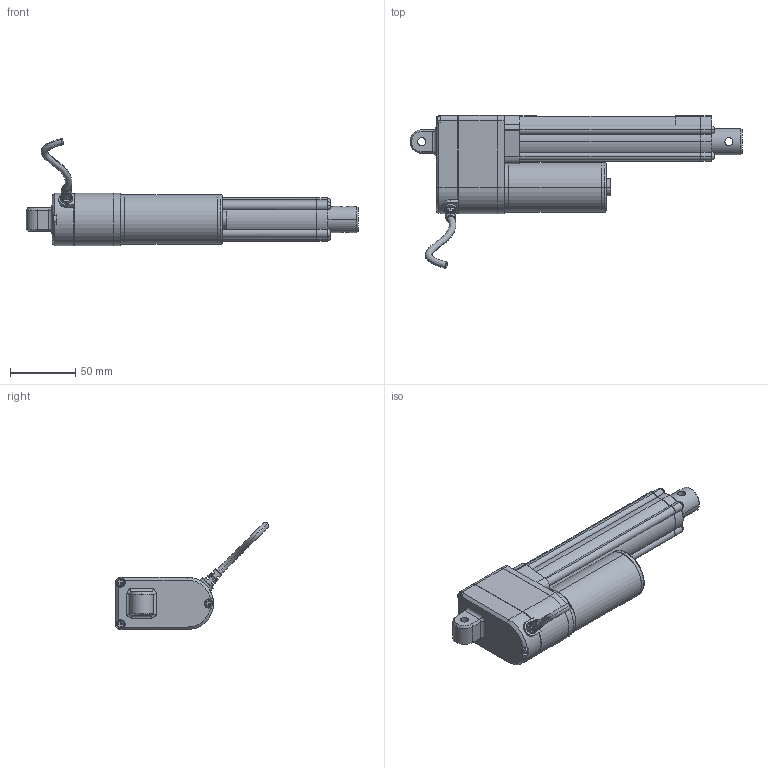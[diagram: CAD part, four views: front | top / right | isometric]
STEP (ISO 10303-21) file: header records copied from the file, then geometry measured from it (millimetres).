
FILE_DESCRIPTION(('STEP AP203'),'1');
FILE_NAME('dj806b1100235b2f011r01111111a01230619175703.stp','2025-06-19T17:57:07',('TraceParts'),('TraceParts S.A.'),'Spatial InterOp 3D',' ',' ');
FILE_SCHEMA(('CONFIG_CONTROL_DESIGN'));
Length unit declared in the file: millimetre
Products named in the file (1): 1
Bounding box: 254 x 117.13 x 82.13 mm (x, y, z)
Volume: 399729.1 mm3; surface area: 51695.8 mm2
Topology: 1 solids, 1 shells, 384 faces, 1037 edges, 669 vertices
Faces by surface type: plane 198, cylinder 118, bspline 40, cone 14, torus 14
Entity records: 14087 total; most frequent: CARTESIAN_POINT 4755, ORIENTED_EDGE 2066, DIRECTION 1811, EDGE_CURVE 1033, VERTEX_POINT 669, AXIS2_PLACEMENT_3D 640, LINE 531, VECTOR 531
